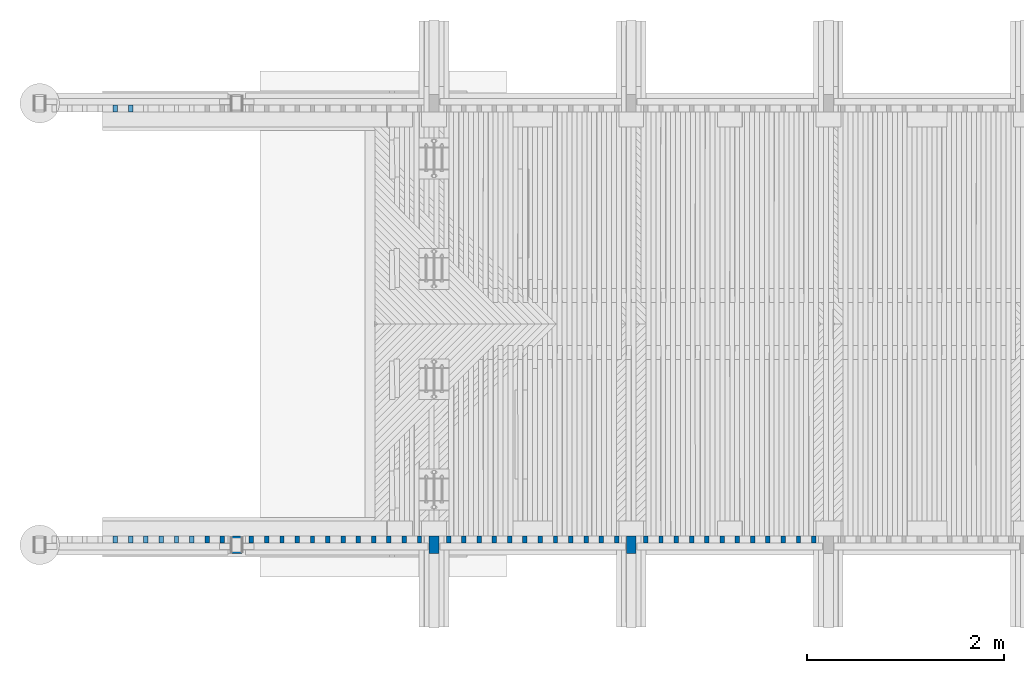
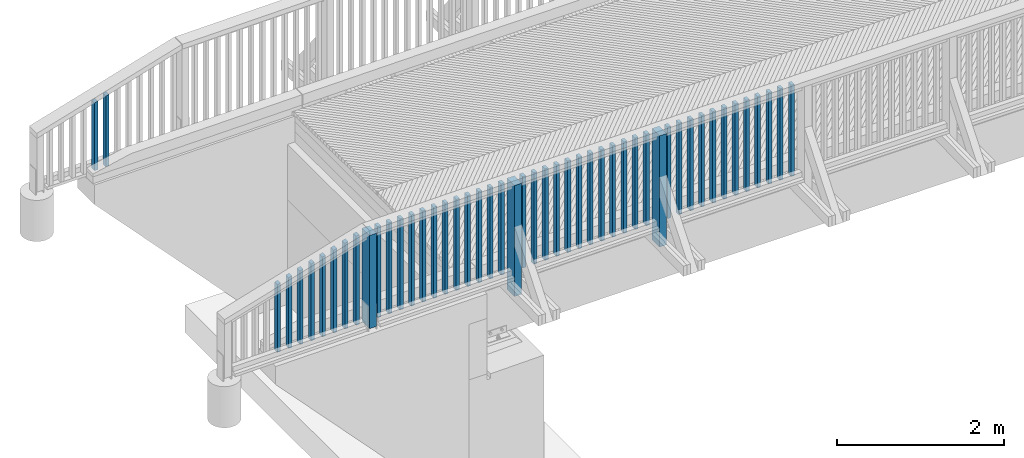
# One storey, part 6 of 53: 49 columns.
"""IFC2X3 building model written with IfcOpenShell, lengths in millimetres."""

from ifc_helpers import new_model, si_unit, frame, origin_with_axes, place, context, subcontext, project, spatial, faceted_brep, material, type_object, element, save


model = new_model("IFC2X3")

# Units and contexts
model_context = context("Model", 3, precision=1e-05, world=origin_with_axes())
body_context = subcontext(model_context, "Body", "Model", "MODEL_VIEW")
ifc_project = project(units=[si_unit("LENGTHUNIT", "METRE", prefix="MILLI"), si_unit("AREAUNIT", "SQUARE_METRE"), si_unit("VOLUMEUNIT", "CUBIC_METRE"), si_unit("MASSUNIT", "GRAM", prefix="KILO"), si_unit("TIMEUNIT", "SECOND"), si_unit("PLANEANGLEUNIT", "RADIAN"), si_unit("SOLIDANGLEUNIT", "STERADIAN"), si_unit("THERMODYNAMICTEMPERATUREUNIT", "DEGREE_CELSIUS"), si_unit("LUMINOUSINTENSITYUNIT", "LUMEN")], contexts=[model_context])

# Site, building, storey
site_placement = place(None, origin_with_axes())
site = spatial("IfcSite", under=ifc_project, at=site_placement, Name="Undefined", CompositionType="ELEMENT")
building_placement = place(site_placement, origin_with_axes())
building = spatial("IfcBuilding", under=site, at=building_placement, Name="Undefined", CompositionType="ELEMENT")
storey_placement = place(building_placement, origin_with_axes())
storey = spatial("IfcBuildingStorey", under=building, at=storey_placement, Name="Undefined", CompositionType="ELEMENT", Elevation=0.0)

# Columns
ifc_material = material(Name="TIMBER/Timber_Undefined")
column_type_1 = type_object("IfcColumnType", Name="180*100", PredefinedType="NOTDEFINED")
column_1_placement = place(storey_placement, frame((-1999.99999924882, 40125.0120919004, 3128.38000000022), z_axis=(0.0, 1.0, 0.0), x_axis=(0.0, 0.0, 1.0)))
element("IfcColumn", 1, at=column_1_placement, inside=storey, type_object=column_type_1, material=ifc_material, Name="KAIDEPYLVÄS", ObjectType="180*100", context=body_context, shape_type="Brep", body=[
    faceted_brep([(-5.71000000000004, 50.0, -90.0), (-5.71000000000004, 50.0, 90.0), (1352.87649222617, 50.0, 90.0), (1352.87649222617, 50.0, -90.0), (-5.71000000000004, -50.0, 90.0), (1351.21940355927, -50.0, 90.0), (-5.71000000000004, -50.0, -90.0), (1351.21940355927, -50.0, -90.0)], [[[0, 1, 2, 3]], [[1, 4, 5, 2]], [[4, 6, 7, 5]], [[6, 0, 3, 7]], [[5, 7, 3, 2]], [[6, 4, 1, 0]]]),
])
for number, where, z_axis, x_axis in (
    (2, (2000.00006783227, 40125.0120918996, 2913.46176658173), (0.0, 1.0, 0.0), (0.0, 0.0, 1.0)),
    (3, (7.51175548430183e-07, 40125.0120919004, 2890.26), (0.0, 1.0, 0.0), (0.0, 0.0, 1.0)),
):
    element("IfcColumn", number, at=place(storey_placement, frame(where, z_axis=z_axis, x_axis=x_axis)), inside=storey, type_object=column_type_1, material=ifc_material, Name="KAIDEPYLVÄS", ObjectType="180*100", context=body_context, shape_type="Brep", body=[
        faceted_brep([(0.0, 50.0, -89.9999999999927), (0.0, 50.0, 90.0), (1620.0, 50.0, 90.0), (1620.0, 50.0, -90.0), (0.0, -49.9999999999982, 90.0000000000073), (1620.0, -50.0, 90.0), (-3.63797880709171e-12, -49.9999999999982, -90.0), (1620.0, -50.0, -90.0)], [[[0, 1, 2, 3]], [[1, 4, 5, 2]], [[4, 6, 7, 5]], [[6, 0, 3, 7]], [[5, 7, 3, 2]], [[6, 4, 1, 0]]]),
    ])
column_type_2 = type_object("IfcColumnType", Name="70*45", PredefinedType="NOTDEFINED")
column_2_placement = place(storey_placement, frame((-3077.49999924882, 44549.9879080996, 3079.15), z_axis=(0.0, 1.0, 0.0), x_axis=(0.0, 0.0, 1.0)))
element("IfcColumn", 4, at=column_2_placement, inside=storey, type_object=column_type_2, material=ifc_material, Name="BEAM", ObjectType="70*45", context=body_context, shape_type="Brep", body=[
    faceted_brep([(55.2401067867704, 22.5, -35.0), (55.2401067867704, 22.5, 35.0), (1098.27970598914, 22.5, 35.0), (1098.27970598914, 22.5, -35.0), (54.5531093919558, -22.5, 35.0), (1084.84420031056, -22.5, 35.0), (54.5531093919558, -22.5, -35.0), (1084.84420031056, -22.5, -35.0)], [[[0, 1, 2, 3]], [[1, 4, 5, 2]], [[4, 6, 7, 5]], [[6, 0, 3, 7]], [[5, 7, 3, 2]], [[6, 4, 1, 0]]]),
])
column_3_placement = place(storey_placement, frame((-3232.49999924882, 44549.9879080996, 3079.15), z_axis=(0.0, 1.0, 0.0), x_axis=(0.0, 0.0, 1.0)))
element("IfcColumn", 5, at=column_3_placement, inside=storey, type_object=column_type_2, material=ifc_material, Name="BEAM", ObjectType="70*45", context=body_context, shape_type="Brep", body=[
    faceted_brep([(52.8737824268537, 22.5, -35.0), (52.8737824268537, 22.5, 35.0), (1052.00185309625, 22.5, 35.0), (1052.00185309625, 22.5, -35.0), (52.1867850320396, -22.5, 35.0), (1038.56634741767, -22.5, 35.0), (52.1867850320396, -22.5, -35.0), (1038.56634741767, -22.5, -35.0)], [[[0, 1, 2, 3]], [[1, 4, 5, 2]], [[4, 6, 7, 5]], [[6, 0, 3, 7]], [[5, 7, 3, 2]], [[6, 4, 1, 0]]]),
])
column_4_placement = place(storey_placement, frame((-2147.49999924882, 40180.0120919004, 3079.15), z_axis=(0.0, -1.0, 0.0), x_axis=(0.0, 0.0, 1.0)))
element("IfcColumn", 6, at=column_4_placement, inside=storey, type_object=column_type_2, material=ifc_material, Name="BEAM", ObjectType="70*45", context=body_context, shape_type="Brep", body=[
    faceted_brep([(68.7510555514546, 22.5, -35.0), (68.7510555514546, 22.5, 35.0), (1362.51131766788, 22.5, 35.0), (1362.51131766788, 22.5, -35.0), (69.4380529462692, -22.5, 35.0), (1375.94682334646, -22.5, 35.0), (69.4380529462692, -22.5, -35.0), (1375.94682334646, -22.5, -35.0)], [[[0, 1, 2, 3]], [[1, 4, 5, 2]], [[4, 6, 7, 5]], [[6, 0, 3, 7]], [[5, 7, 3, 2]], [[6, 4, 1, 0]]]),
])
column_5_placement = place(storey_placement, frame((-2302.49999924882, 40180.0120919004, 3079.15), z_axis=(0.0, -1.0, 0.0), x_axis=(0.0, 0.0, 1.0)))
element("IfcColumn", 7, at=column_5_placement, inside=storey, type_object=column_type_2, material=ifc_material, Name="BEAM", ObjectType="70*45", context=body_context, shape_type="Brep", body=[
    faceted_brep([(66.3847311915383, 22.5, -35.0), (66.3847311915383, 22.5, 35.0), (1316.23346477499, 22.5, 35.0), (1316.23346477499, 22.5, -35.0), (67.0717285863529, -22.5, 35.0), (1329.66897045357, -22.5, 35.0), (67.0717285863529, -22.5, -35.0), (1329.66897045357, -22.5, -35.0)], [[[0, 1, 2, 3]], [[1, 4, 5, 2]], [[4, 6, 7, 5]], [[6, 0, 3, 7]], [[5, 7, 3, 2]], [[6, 4, 1, 0]]]),
])
column_6_placement = place(storey_placement, frame((-2457.49999924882, 40180.0120919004, 3079.15), z_axis=(0.0, -1.0, 0.0), x_axis=(0.0, 0.0, 1.0)))
element("IfcColumn", 8, at=column_6_placement, inside=storey, type_object=column_type_2, material=ifc_material, Name="BEAM", ObjectType="70*45", context=body_context, shape_type="Brep", body=[
    faceted_brep([(64.0184068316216, 22.5, -35.0), (64.0184068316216, 22.5, 35.0), (1269.95561188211, 22.5, 35.0), (1269.95561188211, 22.5, -35.0), (64.7054042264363, -22.5, 35.0), (1283.39111756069, -22.5, 35.0), (64.7054042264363, -22.5, -35.0), (1283.39111756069, -22.5, -35.0)], [[[0, 1, 2, 3]], [[1, 4, 5, 2]], [[4, 6, 7, 5]], [[6, 0, 3, 7]], [[5, 7, 3, 2]], [[6, 4, 1, 0]]]),
])
column_7_placement = place(storey_placement, frame((-2612.49999924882, 40180.0120919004, 3079.15), z_axis=(0.0, -1.0, 0.0), x_axis=(0.0, 0.0, 1.0)))
element("IfcColumn", 9, at=column_7_placement, inside=storey, type_object=column_type_2, material=ifc_material, Name="BEAM", ObjectType="70*45", context=body_context, shape_type="Brep", body=[
    faceted_brep([(61.6520824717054, 22.5, -35.0), (61.6520824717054, 22.5, 35.0), (1223.67775898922, 22.5, 35.0), (1223.67775898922, 22.5, -35.0), (62.3390798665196, -22.5, 35.0), (1237.1132646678, -22.5, 35.0), (62.3390798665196, -22.5, -35.0), (1237.1132646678, -22.5, -35.0)], [[[0, 1, 2, 3]], [[1, 4, 5, 2]], [[4, 6, 7, 5]], [[6, 0, 3, 7]], [[5, 7, 3, 2]], [[6, 4, 1, 0]]]),
])
column_8_placement = place(storey_placement, frame((-2767.49999924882, 40180.0120919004, 3079.15), z_axis=(0.0, -1.0, 0.0), x_axis=(0.0, 0.0, 1.0)))
element("IfcColumn", 10, at=column_8_placement, inside=storey, type_object=column_type_2, material=ifc_material, Name="BEAM", ObjectType="70*45", context=body_context, shape_type="Brep", body=[
    faceted_brep([(59.2857581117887, 22.5, -35.0), (59.2857581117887, 22.5, 35.0), (1177.39990609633, 22.5, 35.0), (1177.39990609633, 22.5, -35.0), (59.9727555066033, -22.5, 35.0), (1190.83541177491, -22.5, 35.0), (59.9727555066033, -22.5, -35.0), (1190.83541177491, -22.5, -35.0)], [[[0, 1, 2, 3]], [[1, 4, 5, 2]], [[4, 6, 7, 5]], [[6, 0, 3, 7]], [[5, 7, 3, 2]], [[6, 4, 1, 0]]]),
])
column_9_placement = place(storey_placement, frame((-2922.49999924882, 40180.0120919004, 3079.15), z_axis=(0.0, -1.0, 0.0), x_axis=(0.0, 0.0, 1.0)))
element("IfcColumn", 11, at=column_9_placement, inside=storey, type_object=column_type_2, material=ifc_material, Name="BEAM", ObjectType="70*45", context=body_context, shape_type="Brep", body=[
    faceted_brep([(56.9194337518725, 22.5, -35.0), (56.9194337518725, 22.5, 35.0), (1131.12205320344, 22.5, 35.0), (1131.12205320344, 22.5, -35.0), (57.6064311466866, -22.5, 35.0), (1144.55755888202, -22.5, 35.0), (57.6064311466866, -22.5, -35.0), (1144.55755888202, -22.5, -35.0)], [[[0, 1, 2, 3]], [[1, 4, 5, 2]], [[4, 6, 7, 5]], [[6, 0, 3, 7]], [[5, 7, 3, 2]], [[6, 4, 1, 0]]]),
])
column_10_placement = place(storey_placement, frame((-3077.49999924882, 40180.0120919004, 3079.15), z_axis=(0.0, -1.0, 0.0), x_axis=(0.0, 0.0, 1.0)))
element("IfcColumn", 12, at=column_10_placement, inside=storey, type_object=column_type_2, material=ifc_material, Name="BEAM", ObjectType="70*45", context=body_context, shape_type="Brep", body=[
    faceted_brep([(54.5531093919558, 22.5, -35.0), (54.5531093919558, 22.5, 35.0), (1084.84420031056, 22.5, 35.0), (1084.84420031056, 22.5, -35.0), (55.2401067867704, -22.5, 35.0), (1098.27970598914, -22.5, 35.0), (55.2401067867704, -22.5, -35.0), (1098.27970598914, -22.5, -35.0)], [[[0, 1, 2, 3]], [[1, 4, 5, 2]], [[4, 6, 7, 5]], [[6, 0, 3, 7]], [[5, 7, 3, 2]], [[6, 4, 1, 0]]]),
])
column_11_placement = place(storey_placement, frame((-3232.49999924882, 40180.0120919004, 3079.15), z_axis=(0.0, -1.0, 0.0), x_axis=(0.0, 0.0, 1.0)))
element("IfcColumn", 13, at=column_11_placement, inside=storey, type_object=column_type_2, material=ifc_material, Name="BEAM", ObjectType="70*45", context=body_context, shape_type="Brep", body=[
    faceted_brep([(52.1867850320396, 22.5, -35.0), (52.1867850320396, 22.5, 35.0), (1038.56634741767, 22.5, 35.0), (1038.56634741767, 22.5, -35.0), (52.8737824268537, -22.5, 35.0), (1052.00185309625, -22.5, 35.0), (52.8737824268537, -22.5, -35.0), (1052.00185309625, -22.5, -35.0)], [[[0, 1, 2, 3]], [[1, 4, 5, 2]], [[4, 6, 7, 5]], [[6, 0, 3, 7]], [[5, 7, 3, 2]], [[6, 4, 1, 0]]]),
])
column_12_placement = place(storey_placement, frame((-147.499999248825, 40180.0120919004, 3109.68000000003), z_axis=(0.0, -1.0, 0.0), x_axis=(0.0, 0.0, 1.0)))
element("IfcColumn", 14, at=column_12_placement, inside=storey, type_object=column_type_2, material=ifc_material, Name="BEAM", ObjectType="70*45", context=body_context, shape_type="Brep", body=[
    faceted_brep([(68.7510555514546, 22.5, -35.0), (68.7510555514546, 22.5, 35.0), (1398.75105555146, 22.5, 35.0), (1398.75105555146, 22.5, -35.0), (69.4380529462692, -22.5, 35.0), (1399.43805294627, -22.5, 35.0), (69.4380529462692, -22.5, -35.0), (1399.43805294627, -22.5, -35.0)], [[[0, 1, 2, 3]], [[1, 4, 5, 2]], [[4, 6, 7, 5]], [[6, 0, 3, 7]], [[5, 7, 3, 2]], [[6, 4, 1, 0]]]),
])
column_13_placement = place(storey_placement, frame((-302.499999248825, 40180.0120919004, 3109.68000000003), z_axis=(0.0, -1.0, 0.0), x_axis=(0.0, 0.0, 1.0)))
element("IfcColumn", 15, at=column_13_placement, inside=storey, type_object=column_type_2, material=ifc_material, Name="BEAM", ObjectType="70*45", context=body_context, shape_type="Brep", body=[
    faceted_brep([(66.3847311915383, 22.5, -35.0), (66.3847311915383, 22.5, 35.0), (1396.38473119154, 22.5, 35.0), (1396.38473119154, 22.5, -35.0), (67.0717285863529, -22.5, 35.0), (1397.07172858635, -22.5, 35.0), (67.0717285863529, -22.5, -35.0), (1397.07172858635, -22.5, -35.0)], [[[0, 1, 2, 3]], [[1, 4, 5, 2]], [[4, 6, 7, 5]], [[6, 0, 3, 7]], [[5, 7, 3, 2]], [[6, 4, 1, 0]]]),
])
column_14_placement = place(storey_placement, frame((-457.499999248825, 40180.0120919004, 3109.68000000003), z_axis=(0.0, -1.0, 0.0), x_axis=(0.0, 0.0, 1.0)))
element("IfcColumn", 16, at=column_14_placement, inside=storey, type_object=column_type_2, material=ifc_material, Name="BEAM", ObjectType="70*45", context=body_context, shape_type="Brep", body=[
    faceted_brep([(64.0184068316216, 22.5, -35.0), (64.0184068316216, 22.5, 35.0), (1394.01840683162, 22.5, 35.0), (1394.01840683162, 22.5, -35.0), (64.7054042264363, -22.5, 35.0), (1394.70540422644, -22.5, 35.0), (64.7054042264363, -22.5, -35.0), (1394.70540422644, -22.5, -35.0)], [[[0, 1, 2, 3]], [[1, 4, 5, 2]], [[4, 6, 7, 5]], [[6, 0, 3, 7]], [[5, 7, 3, 2]], [[6, 4, 1, 0]]]),
])
column_15_placement = place(storey_placement, frame((-612.499999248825, 40180.0120919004, 3109.68000000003), z_axis=(0.0, -1.0, 0.0), x_axis=(0.0, 0.0, 1.0)))
element("IfcColumn", 17, at=column_15_placement, inside=storey, type_object=column_type_2, material=ifc_material, Name="BEAM", ObjectType="70*45", context=body_context, shape_type="Brep", body=[
    faceted_brep([(61.6520824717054, 22.5, -35.0), (61.6520824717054, 22.5, 35.0), (1391.65208247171, 22.5, 35.0), (1391.65208247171, 22.5, -35.0), (62.3390798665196, -22.5, 35.0), (1392.33907986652, -22.5, 35.0), (62.3390798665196, -22.5, -35.0), (1392.33907986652, -22.5, -35.0)], [[[0, 1, 2, 3]], [[1, 4, 5, 2]], [[4, 6, 7, 5]], [[6, 0, 3, 7]], [[5, 7, 3, 2]], [[6, 4, 1, 0]]]),
])
column_16_placement = place(storey_placement, frame((-767.499999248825, 40180.0120919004, 3109.68000000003), z_axis=(0.0, -1.0, 0.0), x_axis=(0.0, 0.0, 1.0)))
element("IfcColumn", 18, at=column_16_placement, inside=storey, type_object=column_type_2, material=ifc_material, Name="BEAM", ObjectType="70*45", context=body_context, shape_type="Brep", body=[
    faceted_brep([(59.2857581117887, 22.5, -35.0), (59.2857581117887, 22.5, 35.0), (1389.28575811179, 22.5, 35.0), (1389.28575811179, 22.5, -35.0), (59.9727555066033, -22.5, 35.0), (1389.97275550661, -22.5, 35.0), (59.9727555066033, -22.5, -35.0), (1389.97275550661, -22.5, -35.0)], [[[0, 1, 2, 3]], [[1, 4, 5, 2]], [[4, 6, 7, 5]], [[6, 0, 3, 7]], [[5, 7, 3, 2]], [[6, 4, 1, 0]]]),
])
column_17_placement = place(storey_placement, frame((-922.499999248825, 40180.0120919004, 3109.68000000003), z_axis=(0.0, -1.0, 0.0), x_axis=(0.0, 0.0, 1.0)))
element("IfcColumn", 19, at=column_17_placement, inside=storey, type_object=column_type_2, material=ifc_material, Name="BEAM", ObjectType="70*45", context=body_context, shape_type="Brep", body=[
    faceted_brep([(56.9194337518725, 22.5, -35.0), (56.9194337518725, 22.5, 35.0), (1386.91943375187, 22.5, 35.0), (1386.91943375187, 22.5, -35.0), (57.6064311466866, -22.5, 35.0), (1387.60643114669, -22.5, 35.0), (57.6064311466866, -22.5, -35.0), (1387.60643114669, -22.5, -35.0)], [[[0, 1, 2, 3]], [[1, 4, 5, 2]], [[4, 6, 7, 5]], [[6, 0, 3, 7]], [[5, 7, 3, 2]], [[6, 4, 1, 0]]]),
])
column_18_placement = place(storey_placement, frame((-1077.49999924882, 40180.0120919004, 3109.68000000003), z_axis=(0.0, -1.0, 0.0), x_axis=(0.0, 0.0, 1.0)))
element("IfcColumn", 20, at=column_18_placement, inside=storey, type_object=column_type_2, material=ifc_material, Name="BEAM", ObjectType="70*45", context=body_context, shape_type="Brep", body=[
    faceted_brep([(54.5531093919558, 22.5, -35.0), (54.5531093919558, 22.5, 35.0), (1384.55310939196, 22.5, 35.0), (1384.55310939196, 22.5, -35.0), (55.2401067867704, -22.5, 35.0), (1385.24010678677, -22.5, 35.0), (55.2401067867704, -22.5, -35.0), (1385.24010678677, -22.5, -35.0)], [[[0, 1, 2, 3]], [[1, 4, 5, 2]], [[4, 6, 7, 5]], [[6, 0, 3, 7]], [[5, 7, 3, 2]], [[6, 4, 1, 0]]]),
])
column_19_placement = place(storey_placement, frame((-1232.49999924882, 40180.0120919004, 3109.68000000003), z_axis=(0.0, -1.0, 0.0), x_axis=(0.0, 0.0, 1.0)))
element("IfcColumn", 21, at=column_19_placement, inside=storey, type_object=column_type_2, material=ifc_material, Name="BEAM", ObjectType="70*45", context=body_context, shape_type="Brep", body=[
    faceted_brep([(52.1867850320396, 22.5, -35.0), (52.1867850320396, 22.5, 35.0), (1382.18678503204, 22.5, 35.0), (1382.18678503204, 22.5, -35.0), (52.8737824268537, -22.5, 35.0), (1382.87378242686, -22.5, 35.0), (52.8737824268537, -22.5, -35.0), (1382.87378242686, -22.5, -35.0)], [[[0, 1, 2, 3]], [[1, 4, 5, 2]], [[4, 6, 7, 5]], [[6, 0, 3, 7]], [[5, 7, 3, 2]], [[6, 4, 1, 0]]]),
])
column_20_placement = place(storey_placement, frame((-1387.49999924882, 40180.0120919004, 3109.68000000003), z_axis=(0.0, -1.0, 0.0), x_axis=(0.0, 0.0, 1.0)))
element("IfcColumn", 22, at=column_20_placement, inside=storey, type_object=column_type_2, material=ifc_material, Name="BEAM", ObjectType="70*45", context=body_context, shape_type="Brep", body=[
    faceted_brep([(49.8204606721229, 22.5, -35.0), (49.8204606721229, 22.5, 35.0), (1379.82046067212, 22.5, 35.0), (1379.82046067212, 22.5, -35.0), (50.5074580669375, -22.5, 35.0), (1380.50745806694, -22.5, 35.0), (50.5074580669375, -22.5, -35.0), (1380.50745806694, -22.5, -35.0)], [[[0, 1, 2, 3]], [[1, 4, 5, 2]], [[4, 6, 7, 5]], [[6, 0, 3, 7]], [[5, 7, 3, 2]], [[6, 4, 1, 0]]]),
])
column_21_placement = place(storey_placement, frame((-1542.49999924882, 40180.0120919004, 3109.68000000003), z_axis=(0.0, -1.0, 0.0), x_axis=(0.0, 0.0, 1.0)))
element("IfcColumn", 23, at=column_21_placement, inside=storey, type_object=column_type_2, material=ifc_material, Name="BEAM", ObjectType="70*45", context=body_context, shape_type="Brep", body=[
    faceted_brep([(47.4541363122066, 22.5, -35.0), (47.4541363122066, 22.5, 35.0), (1377.45413631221, 22.5, 35.0), (1377.45413631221, 22.5, -35.0), (48.1411337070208, -22.5, 35.0), (1378.14113370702, -22.5, 35.0), (48.1411337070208, -22.5, -35.0), (1378.14113370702, -22.5, -35.0)], [[[0, 1, 2, 3]], [[1, 4, 5, 2]], [[4, 6, 7, 5]], [[6, 0, 3, 7]], [[5, 7, 3, 2]], [[6, 4, 1, 0]]]),
])
column_22_placement = place(storey_placement, frame((-1697.49999924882, 40180.0120919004, 3109.68000000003), z_axis=(0.0, -1.0, 0.0), x_axis=(0.0, 0.0, 1.0)))
element("IfcColumn", 24, at=column_22_placement, inside=storey, type_object=column_type_2, material=ifc_material, Name="BEAM", ObjectType="70*45", context=body_context, shape_type="Brep", body=[
    faceted_brep([(45.0878119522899, 22.5, -35.0), (45.0878119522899, 22.5, 35.0), (1375.08781195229, 22.5, 35.0), (1375.08781195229, 22.5, -35.0), (45.7748093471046, -22.5, 35.0), (1375.77480934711, -22.5, 35.0), (45.7748093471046, -22.5, -35.0), (1375.77480934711, -22.5, -35.0)], [[[0, 1, 2, 3]], [[1, 4, 5, 2]], [[4, 6, 7, 5]], [[6, 0, 3, 7]], [[5, 7, 3, 2]], [[6, 4, 1, 0]]]),
])
column_23_placement = place(storey_placement, frame((-1852.49999924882, 40180.0120919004, 3109.68000000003), z_axis=(0.0, -1.0, 0.0), x_axis=(0.0, 0.0, 1.0)))
element("IfcColumn", 25, at=column_23_placement, inside=storey, type_object=column_type_2, material=ifc_material, Name="BEAM", ObjectType="70*45", context=body_context, shape_type="Brep", body=[
    faceted_brep([(42.7214875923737, 22.5, -35.0), (42.7214875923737, 22.5, 35.0), (1372.72148759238, 22.5, 35.0), (1372.72148759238, 22.5, -35.0), (43.4084849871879, -22.5, 35.0), (1373.40848498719, -22.5, 35.0), (43.4084849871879, -22.5, -35.0), (1373.40848498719, -22.5, -35.0)], [[[0, 1, 2, 3]], [[1, 4, 5, 2]], [[4, 6, 7, 5]], [[6, 0, 3, 7]], [[5, 7, 3, 2]], [[6, 4, 1, 0]]]),
])
column_24_placement = place(storey_placement, frame((3852.50000075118, 40180.0120919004, 3109.68000000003), z_axis=(0.0, -1.0, 0.0), x_axis=(0.0, 0.0, 1.0)))
element("IfcColumn", 26, at=column_24_placement, inside=storey, type_object=column_type_2, material=ifc_material, Name="BEAM", ObjectType="70*45", context=body_context, shape_type="Brep", body=[
    faceted_brep([(104.313805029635, 22.5, -35.0), (104.313805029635, 22.5, 35.0), (1439.30722132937, 22.5, 35.0), (1439.30722132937, 22.5, -35.0), (104.706302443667, -22.5, 35.0), (1439.6997187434, -22.5, 35.0), (104.706302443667, -22.5, -35.0), (1439.6997187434, -22.5, -35.0)], [[[0, 1, 2, 3]], [[1, 4, 5, 2]], [[4, 6, 7, 5]], [[6, 0, 3, 7]], [[5, 7, 3, 2]], [[6, 4, 1, 0]]]),
])
column_25_placement = place(storey_placement, frame((3697.50000075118, 40180.0120919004, 3109.68000000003), z_axis=(0.0, -1.0, 0.0), x_axis=(0.0, 0.0, 1.0)))
element("IfcColumn", 27, at=column_25_placement, inside=storey, type_object=column_type_2, material=ifc_material, Name="BEAM", ObjectType="70*45", context=body_context, shape_type="Brep", body=[
    faceted_brep([(102.961869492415, 22.5, -35.0), (102.961869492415, 22.5, 35.0), (1437.95528579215, 22.5, 35.0), (1437.95528579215, 22.5, -35.0), (103.354366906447, -22.5, 35.0), (1438.34778320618, -22.5, 35.0), (103.354366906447, -22.5, -35.0), (1438.34778320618, -22.5, -35.0)], [[[0, 1, 2, 3]], [[1, 4, 5, 2]], [[4, 6, 7, 5]], [[6, 0, 3, 7]], [[5, 7, 3, 2]], [[6, 4, 1, 0]]]),
])
column_26_placement = place(storey_placement, frame((3542.50000075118, 40180.0120919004, 3109.68000000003), z_axis=(0.0, -1.0, 0.0), x_axis=(0.0, 0.0, 1.0)))
element("IfcColumn", 28, at=column_26_placement, inside=storey, type_object=column_type_2, material=ifc_material, Name="BEAM", ObjectType="70*45", context=body_context, shape_type="Brep", body=[
    faceted_brep([(101.609933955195, 22.5, -35.0), (101.609933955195, 22.5, 35.0), (1436.60335025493, 22.5, 35.0), (1436.60335025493, 22.5, -35.0), (102.002431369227, -22.5, 35.0), (1436.99584766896, -22.5, 35.0), (102.002431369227, -22.5, -35.0), (1436.99584766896, -22.5, -35.0)], [[[0, 1, 2, 3]], [[1, 4, 5, 2]], [[4, 6, 7, 5]], [[6, 0, 3, 7]], [[5, 7, 3, 2]], [[6, 4, 1, 0]]]),
])
column_27_placement = place(storey_placement, frame((3387.50000075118, 40180.0120919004, 3109.68000000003), z_axis=(0.0, -1.0, 0.0), x_axis=(0.0, 0.0, 1.0)))
element("IfcColumn", 29, at=column_27_placement, inside=storey, type_object=column_type_2, material=ifc_material, Name="BEAM", ObjectType="70*45", context=body_context, shape_type="Brep", body=[
    faceted_brep([(100.257998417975, 22.5, -35.0), (100.257998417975, 22.5, 35.0), (1435.25141471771, 22.5, 35.0), (1435.25141471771, 22.5, -35.0), (100.650495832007, -22.5, 35.0), (1435.64391213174, -22.5, 35.0), (100.650495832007, -22.5, -35.0), (1435.64391213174, -22.5, -35.0)], [[[0, 1, 2, 3]], [[1, 4, 5, 2]], [[4, 6, 7, 5]], [[6, 0, 3, 7]], [[5, 7, 3, 2]], [[6, 4, 1, 0]]]),
])
column_28_placement = place(storey_placement, frame((3232.50000075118, 40180.0120919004, 3109.68000000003), z_axis=(0.0, -1.0, 0.0), x_axis=(0.0, 0.0, 1.0)))
element("IfcColumn", 30, at=column_28_placement, inside=storey, type_object=column_type_2, material=ifc_material, Name="BEAM", ObjectType="70*45", context=body_context, shape_type="Brep", body=[
    faceted_brep([(98.9060628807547, 22.5, -35.0), (98.9060628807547, 22.5, 35.0), (1433.89947918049, 22.5, 35.0), (1433.89947918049, 22.5, -35.0), (99.2985602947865, -22.5, 35.0), (1434.29197659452, -22.5, 35.0), (99.2985602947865, -22.5, -35.0), (1434.29197659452, -22.5, -35.0)], [[[0, 1, 2, 3]], [[1, 4, 5, 2]], [[4, 6, 7, 5]], [[6, 0, 3, 7]], [[5, 7, 3, 2]], [[6, 4, 1, 0]]]),
])
column_29_placement = place(storey_placement, frame((3077.50000075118, 40180.0120919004, 3109.68000000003), z_axis=(0.0, -1.0, 0.0), x_axis=(0.0, 0.0, 1.0)))
element("IfcColumn", 31, at=column_29_placement, inside=storey, type_object=column_type_2, material=ifc_material, Name="BEAM", ObjectType="70*45", context=body_context, shape_type="Brep", body=[
    faceted_brep([(97.5541273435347, 22.5, -35.0), (97.5541273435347, 22.5, 35.0), (1432.54754364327, 22.5, 35.0), (1432.54754364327, 22.5, -35.0), (97.9466247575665, -22.5, 35.0), (1432.9400410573, -22.5, 35.0), (97.9466247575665, -22.5, -35.0), (1432.9400410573, -22.5, -35.0)], [[[0, 1, 2, 3]], [[1, 4, 5, 2]], [[4, 6, 7, 5]], [[6, 0, 3, 7]], [[5, 7, 3, 2]], [[6, 4, 1, 0]]]),
])
column_30_placement = place(storey_placement, frame((2922.50000075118, 40180.0120919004, 3109.68000000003), z_axis=(0.0, -1.0, 0.0), x_axis=(0.0, 0.0, 1.0)))
element("IfcColumn", 32, at=column_30_placement, inside=storey, type_object=column_type_2, material=ifc_material, Name="BEAM", ObjectType="70*45", context=body_context, shape_type="Brep", body=[
    faceted_brep([(96.2021918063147, 22.5, -35.0), (96.2021918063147, 22.5, 35.0), (1431.19560810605, 22.5, 35.0), (1431.19560810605, 22.5, -35.0), (96.5946892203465, -22.5, 35.0), (1431.58810552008, -22.5, 35.0), (96.5946892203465, -22.5, -35.0), (1431.58810552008, -22.5, -35.0)], [[[0, 1, 2, 3]], [[1, 4, 5, 2]], [[4, 6, 7, 5]], [[6, 0, 3, 7]], [[5, 7, 3, 2]], [[6, 4, 1, 0]]]),
])
column_31_placement = place(storey_placement, frame((2767.50000075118, 40180.0120919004, 3109.68000000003), z_axis=(0.0, -1.0, 0.0), x_axis=(0.0, 0.0, 1.0)))
element("IfcColumn", 33, at=column_31_placement, inside=storey, type_object=column_type_2, material=ifc_material, Name="BEAM", ObjectType="70*45", context=body_context, shape_type="Brep", body=[
    faceted_brep([(94.8502562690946, 22.5, -35.0), (94.8502562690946, 22.5, 35.0), (1429.84367256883, 22.5, 35.0), (1429.84367256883, 22.5, -35.0), (95.242753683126, -22.5, 35.0), (1430.23616998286, -22.5, 35.0), (95.242753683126, -22.5, -35.0), (1430.23616998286, -22.5, -35.0)], [[[0, 1, 2, 3]], [[1, 4, 5, 2]], [[4, 6, 7, 5]], [[6, 0, 3, 7]], [[5, 7, 3, 2]], [[6, 4, 1, 0]]]),
])
column_32_placement = place(storey_placement, frame((2612.50000075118, 40180.0120919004, 3109.68000000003), z_axis=(0.0, -1.0, 0.0), x_axis=(0.0, 0.0, 1.0)))
element("IfcColumn", 34, at=column_32_placement, inside=storey, type_object=column_type_2, material=ifc_material, Name="BEAM", ObjectType="70*45", context=body_context, shape_type="Brep", body=[
    faceted_brep([(93.4983207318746, 22.5, -35.0), (93.4983207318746, 22.5, 35.0), (1428.49173703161, 22.5, 35.0), (1428.49173703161, 22.5, -35.0), (93.890818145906, -22.5, 35.0), (1428.88423444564, -22.5, 35.0), (93.890818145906, -22.5, -35.0), (1428.88423444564, -22.5, -35.0)], [[[0, 1, 2, 3]], [[1, 4, 5, 2]], [[4, 6, 7, 5]], [[6, 0, 3, 7]], [[5, 7, 3, 2]], [[6, 4, 1, 0]]]),
])
column_33_placement = place(storey_placement, frame((2457.50000075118, 40180.0120919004, 3109.68000000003), z_axis=(0.0, -1.0, 0.0), x_axis=(0.0, 0.0, 1.0)))
element("IfcColumn", 35, at=column_33_placement, inside=storey, type_object=column_type_2, material=ifc_material, Name="BEAM", ObjectType="70*45", context=body_context, shape_type="Brep", body=[
    faceted_brep([(92.1463851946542, 22.5, -35.0), (92.1463851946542, 22.5, 35.0), (1427.13980149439, 22.5, 35.0), (1427.13980149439, 22.5, -35.0), (92.538882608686, -22.5, 35.0), (1427.53229890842, -22.5, 35.0), (92.538882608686, -22.5, -35.0), (1427.53229890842, -22.5, -35.0)], [[[0, 1, 2, 3]], [[1, 4, 5, 2]], [[4, 6, 7, 5]], [[6, 0, 3, 7]], [[5, 7, 3, 2]], [[6, 4, 1, 0]]]),
])
column_34_placement = place(storey_placement, frame((2302.50000075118, 40180.0120919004, 3109.68000000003), z_axis=(0.0, -1.0, 0.0), x_axis=(0.0, 0.0, 1.0)))
element("IfcColumn", 36, at=column_34_placement, inside=storey, type_object=column_type_2, material=ifc_material, Name="BEAM", ObjectType="70*45", context=body_context, shape_type="Brep", body=[
    faceted_brep([(90.7944496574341, 22.5, -35.0), (90.7944496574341, 22.5, 35.0), (1425.78786595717, 22.5, 35.0), (1425.78786595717, 22.5, -35.0), (91.186947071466, -22.5, 35.0), (1426.1803633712, -22.5, 35.0), (91.186947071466, -22.5, -35.0), (1426.1803633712, -22.5, -35.0)], [[[0, 1, 2, 3]], [[1, 4, 5, 2]], [[4, 6, 7, 5]], [[6, 0, 3, 7]], [[5, 7, 3, 2]], [[6, 4, 1, 0]]]),
])
column_35_placement = place(storey_placement, frame((2147.50000075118, 40180.0120919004, 3109.68000000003), z_axis=(0.0, -1.0, 0.0), x_axis=(0.0, 0.0, 1.0)))
element("IfcColumn", 37, at=column_35_placement, inside=storey, type_object=column_type_2, material=ifc_material, Name="BEAM", ObjectType="70*45", context=body_context, shape_type="Brep", body=[
    faceted_brep([(89.4425141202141, 22.5, -35.0), (89.4425141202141, 22.5, 35.0), (1424.43593041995, 22.5, 35.0), (1424.43593041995, 22.5, -35.0), (89.835011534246, -22.5, 35.0), (1424.82842783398, -22.5, 35.0), (89.835011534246, -22.5, -35.0), (1424.82842783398, -22.5, -35.0)], [[[0, 1, 2, 3]], [[1, 4, 5, 2]], [[4, 6, 7, 5]], [[6, 0, 3, 7]], [[5, 7, 3, 2]], [[6, 4, 1, 0]]]),
])
column_36_placement = place(storey_placement, frame((1852.50000075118, 40180.0120919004, 3109.68000000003), z_axis=(0.0, -1.0, 0.0), x_axis=(0.0, 0.0, 1.0)))
element("IfcColumn", 38, at=column_36_placement, inside=storey, type_object=column_type_2, material=ifc_material, Name="BEAM", ObjectType="70*45", context=body_context, shape_type="Brep", body=[
    faceted_brep([(87.3204198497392, 22.5, -35.0), (87.3204198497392, 22.5, 35.0), (1422.31639554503, 22.5, 35.0), (1422.31639554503, 22.5, -35.0), (87.8699353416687, -22.5, 35.0), (1422.86591004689, -22.5, 35.0), (87.8699353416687, -22.5, -35.0), (1422.86591004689, -22.5, -35.0)], [[[0, 1, 2, 3]], [[1, 4, 5, 2]], [[4, 6, 7, 5]], [[6, 0, 3, 7]], [[5, 7, 3, 2]], [[6, 4, 1, 0]]]),
])
column_37_placement = place(storey_placement, frame((1697.50000075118, 40180.0120919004, 3109.68000000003), z_axis=(0.0, -1.0, 0.0), x_axis=(0.0, 0.0, 1.0)))
element("IfcColumn", 39, at=column_37_placement, inside=storey, type_object=column_type_2, material=ifc_material, Name="BEAM", ObjectType="70*45", context=body_context, shape_type="Brep", body=[
    faceted_brep([(85.4276442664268, 22.5, -35.0), (85.4276442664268, 22.5, 35.0), (1420.42362337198, 22.5, 35.0), (1420.42362337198, 22.5, -35.0), (85.9771597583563, -22.5, 35.0), (1420.97313787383, -22.5, 35.0), (85.9771597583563, -22.5, -35.0), (1420.97313787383, -22.5, -35.0)], [[[0, 1, 2, 3]], [[1, 4, 5, 2]], [[4, 6, 7, 5]], [[6, 0, 3, 7]], [[5, 7, 3, 2]], [[6, 4, 1, 0]]]),
])
column_38_placement = place(storey_placement, frame((1542.50000075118, 40180.0120919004, 3109.68000000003), z_axis=(0.0, -1.0, 0.0), x_axis=(0.0, 0.0, 1.0)))
element("IfcColumn", 40, at=column_38_placement, inside=storey, type_object=column_type_2, material=ifc_material, Name="BEAM", ObjectType="70*45", context=body_context, shape_type="Brep", body=[
    faceted_brep([(83.5348686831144, 22.5, -35.0), (83.5348686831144, 22.5, 35.0), (1418.53085119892, 22.5, 35.0), (1418.53085119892, 22.5, -35.0), (84.0843841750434, -22.5, 35.0), (1419.08036570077, -22.5, 35.0), (84.0843841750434, -22.5, -35.0), (1419.08036570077, -22.5, -35.0)], [[[0, 1, 2, 3]], [[1, 4, 5, 2]], [[4, 6, 7, 5]], [[6, 0, 3, 7]], [[5, 7, 3, 2]], [[6, 4, 1, 0]]]),
])
column_39_placement = place(storey_placement, frame((1387.50000075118, 40180.0120919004, 3109.68000000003), z_axis=(0.0, -1.0, 0.0), x_axis=(0.0, 0.0, 1.0)))
element("IfcColumn", 41, at=column_39_placement, inside=storey, type_object=column_type_2, material=ifc_material, Name="BEAM", ObjectType="70*45", context=body_context, shape_type="Brep", body=[
    faceted_brep([(81.6420930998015, 22.5, -35.0), (81.6420930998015, 22.5, 35.0), (1416.63807902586, 22.5, 35.0), (1416.63807902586, 22.5, -35.0), (82.191608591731, -22.5, 35.0), (1417.18759352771, -22.5, 35.0), (82.191608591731, -22.5, -35.0), (1417.18759352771, -22.5, -35.0)], [[[0, 1, 2, 3]], [[1, 4, 5, 2]], [[4, 6, 7, 5]], [[6, 0, 3, 7]], [[5, 7, 3, 2]], [[6, 4, 1, 0]]]),
])
column_40_placement = place(storey_placement, frame((1232.50000075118, 40180.0120919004, 3109.68000000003), z_axis=(0.0, -1.0, 0.0), x_axis=(0.0, 0.0, 1.0)))
element("IfcColumn", 42, at=column_40_placement, inside=storey, type_object=column_type_2, material=ifc_material, Name="BEAM", ObjectType="70*45", context=body_context, shape_type="Brep", body=[
    faceted_brep([(79.7493175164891, 22.5, -35.0), (79.7493175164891, 22.5, 35.0), (1414.7453068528, 22.5, 35.0), (1414.7453068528, 22.5, -35.0), (80.2988330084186, -22.5, 35.0), (1415.29482135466, -22.5, 35.0), (80.2988330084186, -22.5, -35.0), (1415.29482135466, -22.5, -35.0)], [[[0, 1, 2, 3]], [[1, 4, 5, 2]], [[4, 6, 7, 5]], [[6, 0, 3, 7]], [[5, 7, 3, 2]], [[6, 4, 1, 0]]]),
])
column_41_placement = place(storey_placement, frame((1077.50000075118, 40180.0120919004, 3109.68000000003), z_axis=(0.0, -1.0, 0.0), x_axis=(0.0, 0.0, 1.0)))
element("IfcColumn", 43, at=column_41_placement, inside=storey, type_object=column_type_2, material=ifc_material, Name="BEAM", ObjectType="70*45", context=body_context, shape_type="Brep", body=[
    faceted_brep([(77.8565419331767, 22.5, -35.0), (77.8565419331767, 22.5, 35.0), (1412.85253467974, 22.5, 35.0), (1412.85253467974, 22.5, -35.0), (78.4060574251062, -22.5, 35.0), (1413.4020491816, -22.5, 35.0), (78.4060574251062, -22.5, -35.0), (1413.4020491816, -22.5, -35.0)], [[[0, 1, 2, 3]], [[1, 4, 5, 2]], [[4, 6, 7, 5]], [[6, 0, 3, 7]], [[5, 7, 3, 2]], [[6, 4, 1, 0]]]),
])
column_42_placement = place(storey_placement, frame((922.500000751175, 40180.0120919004, 3109.68000000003), z_axis=(0.0, -1.0, 0.0), x_axis=(0.0, 0.0, 1.0)))
element("IfcColumn", 44, at=column_42_placement, inside=storey, type_object=column_type_2, material=ifc_material, Name="BEAM", ObjectType="70*45", context=body_context, shape_type="Brep", body=[
    faceted_brep([(75.9637663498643, 22.5, -35.0), (75.9637663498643, 22.5, 35.0), (1410.95976250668, 22.5, 35.0), (1410.95976250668, 22.5, -35.0), (76.5132818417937, -22.5, 35.0), (1411.50927700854, -22.5, 35.0), (76.5132818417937, -22.5, -35.0), (1411.50927700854, -22.5, -35.0)], [[[0, 1, 2, 3]], [[1, 4, 5, 2]], [[4, 6, 7, 5]], [[6, 0, 3, 7]], [[5, 7, 3, 2]], [[6, 4, 1, 0]]]),
])
column_43_placement = place(storey_placement, frame((767.500000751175, 40180.0120919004, 3109.68000000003), z_axis=(0.0, -1.0, 0.0), x_axis=(0.0, 0.0, 1.0)))
element("IfcColumn", 45, at=column_43_placement, inside=storey, type_object=column_type_2, material=ifc_material, Name="BEAM", ObjectType="70*45", context=body_context, shape_type="Brep", body=[
    faceted_brep([(74.0709907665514, 22.5, -35.0), (74.0709907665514, 22.5, 35.0), (1409.06699033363, 22.5, 35.0), (1409.06699033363, 22.5, -35.0), (74.6205062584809, -22.5, 35.0), (1409.61650483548, -22.5, 35.0), (74.6205062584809, -22.5, -35.0), (1409.61650483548, -22.5, -35.0)], [[[0, 1, 2, 3]], [[1, 4, 5, 2]], [[4, 6, 7, 5]], [[6, 0, 3, 7]], [[5, 7, 3, 2]], [[6, 4, 1, 0]]]),
])
column_44_placement = place(storey_placement, frame((612.500000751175, 40180.0120919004, 3109.68000000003), z_axis=(0.0, -1.0, 0.0), x_axis=(0.0, 0.0, 1.0)))
element("IfcColumn", 46, at=column_44_placement, inside=storey, type_object=column_type_2, material=ifc_material, Name="BEAM", ObjectType="70*45", context=body_context, shape_type="Brep", body=[
    faceted_brep([(72.178215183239, 22.5, -35.0), (72.178215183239, 22.5, 35.0), (1407.17421816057, 22.5, 35.0), (1407.17421816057, 22.5, -35.0), (72.7277306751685, -22.5, 35.0), (1407.72373266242, -22.5, 35.0), (72.7277306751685, -22.5, -35.0), (1407.72373266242, -22.5, -35.0)], [[[0, 1, 2, 3]], [[1, 4, 5, 2]], [[4, 6, 7, 5]], [[6, 0, 3, 7]], [[5, 7, 3, 2]], [[6, 4, 1, 0]]]),
])
column_45_placement = place(storey_placement, frame((457.500000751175, 40180.0120919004, 3109.68000000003), z_axis=(0.0, -1.0, 0.0), x_axis=(0.0, 0.0, 1.0)))
element("IfcColumn", 47, at=column_45_placement, inside=storey, type_object=column_type_2, material=ifc_material, Name="BEAM", ObjectType="70*45", context=body_context, shape_type="Brep", body=[
    faceted_brep([(70.2854395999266, 22.5, -35.0), (70.2854395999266, 22.5, 35.0), (1405.28144598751, 22.5, 35.0), (1405.28144598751, 22.5, -35.0), (70.834955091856, -22.5, 35.0), (1405.83096048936, -22.5, 35.0), (70.834955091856, -22.5, -35.0), (1405.83096048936, -22.5, -35.0)], [[[0, 1, 2, 3]], [[1, 4, 5, 2]], [[4, 6, 7, 5]], [[6, 0, 3, 7]], [[5, 7, 3, 2]], [[6, 4, 1, 0]]]),
])
column_46_placement = place(storey_placement, frame((302.500000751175, 40180.0120919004, 3109.68000000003), z_axis=(0.0, -1.0, 0.0), x_axis=(0.0, 0.0, 1.0)))
element("IfcColumn", 48, at=column_46_placement, inside=storey, type_object=column_type_2, material=ifc_material, Name="BEAM", ObjectType="70*45", context=body_context, shape_type="Brep", body=[
    faceted_brep([(68.3926640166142, 22.5, -35.0), (68.3926640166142, 22.5, 35.0), (1403.38867381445, 22.5, 35.0), (1403.38867381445, 22.5, -35.0), (68.9421795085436, -22.5, 35.0), (1403.93818831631, -22.5, 35.0), (68.9421795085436, -22.5, -35.0), (1403.93818831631, -22.5, -35.0)], [[[0, 1, 2, 3]], [[1, 4, 5, 2]], [[4, 6, 7, 5]], [[6, 0, 3, 7]], [[5, 7, 3, 2]], [[6, 4, 1, 0]]]),
])
column_47_placement = place(storey_placement, frame((147.500000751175, 40180.0120919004, 3109.68000000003), z_axis=(0.0, -1.0, 0.0), x_axis=(0.0, 0.0, 1.0)))
element("IfcColumn", 49, at=column_47_placement, inside=storey, type_object=column_type_2, material=ifc_material, Name="BEAM", ObjectType="70*45", context=body_context, shape_type="Brep", body=[
    faceted_brep([(66.4998884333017, 22.5, -35.0), (66.4998884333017, 22.5, 35.0), (1401.49590164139, 22.5, 35.0), (1401.49590164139, 22.5, -35.0), (67.0494039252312, -22.5, 35.0), (1402.04541614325, -22.5, 35.0), (67.0494039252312, -22.5, -35.0), (1402.04541614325, -22.5, -35.0)], [[[0, 1, 2, 3]], [[1, 4, 5, 2]], [[4, 6, 7, 5]], [[6, 0, 3, 7]], [[5, 7, 3, 2]], [[6, 4, 1, 0]]]),
])

save(model, "model.ifc")
